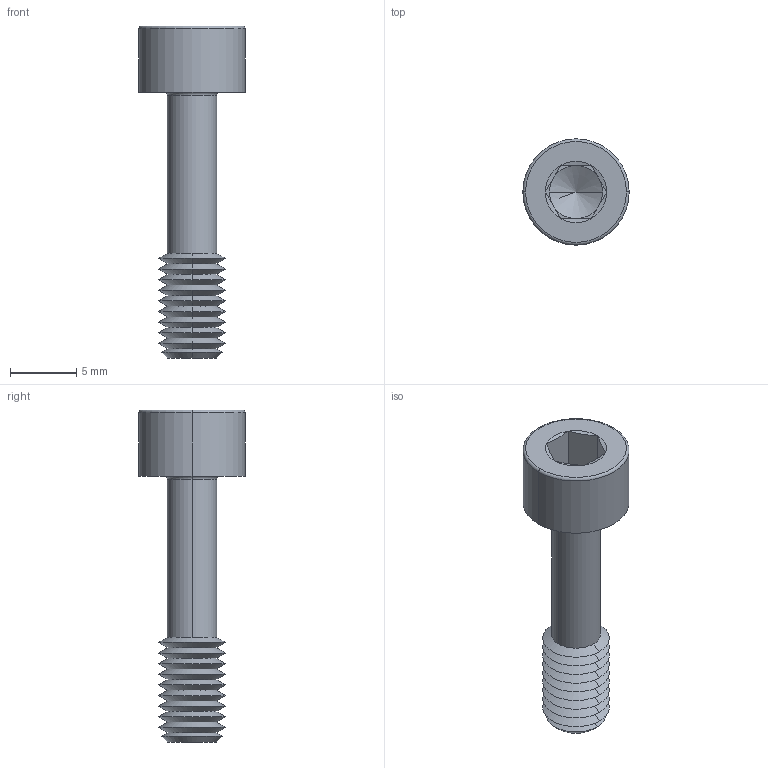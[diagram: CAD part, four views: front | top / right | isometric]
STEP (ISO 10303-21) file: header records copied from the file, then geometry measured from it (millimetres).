
FILE_DESCRIPTION (( 'STEP AP203' ), '1' );
FILE_NAME ('P0154.050-020-BL.step', '2024-06-17T11:26:42', ( '' ), ( '' ), 'SwSTEP 2.0', 'SolidWorks 2019', '' );
FILE_SCHEMA (( 'CONFIG_CONTROL_DESIGN' ));
Length unit declared in the file: millimetre
Products named in the file (1): P0154.050-020-BL
Bounding box: 8 x 8 x 25 mm (x, y, z)
Volume: 435.9 mm3; surface area: 629.3 mm2
Topology: 1 solids, 1 shells, 71 faces, 144 edges, 75 vertices
Faces by surface type: cone 48, plane 15, torus 4, cylinder 4
Entity records: 1887 total; most frequent: DIRECTION 352, CARTESIAN_POINT 315, ORIENTED_EDGE 284, AXIS2_PLACEMENT_3D 144, EDGE_CURVE 142, VERTEX_POINT 75, EDGE_LOOP 73, CIRCLE 72
